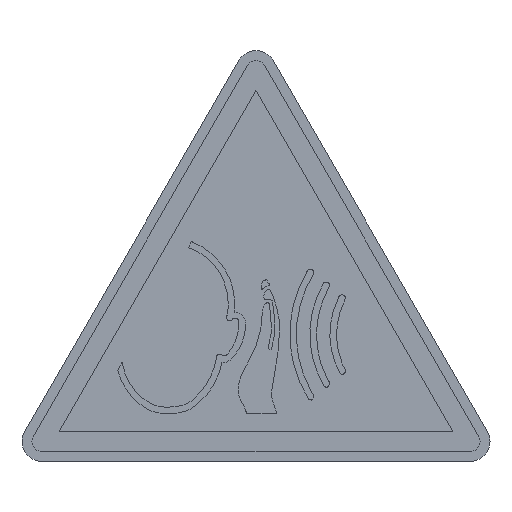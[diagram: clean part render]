
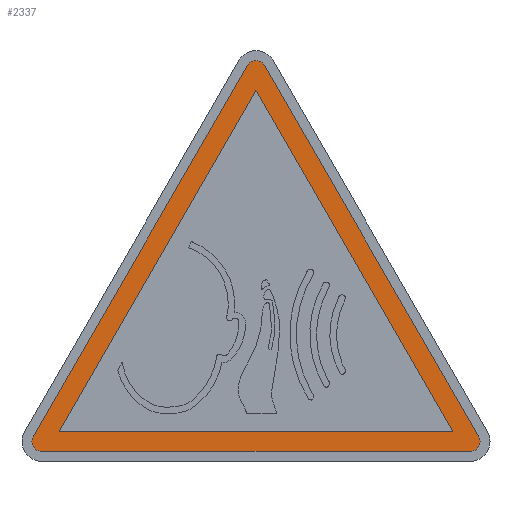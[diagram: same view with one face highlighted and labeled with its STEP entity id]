
A CAD part, top view. The second image highlights one B-rep face of the part: STEP entity #2337.
In plain terms, the highlighted planar face has unit normal (0, 0, 1).
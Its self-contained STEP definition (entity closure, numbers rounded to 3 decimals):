
#3 = VECTOR ( 'NONE', #2877, 1000. ) ;
#30 = ORIENTED_EDGE ( 'NONE', *, *, #869, .T. ) ;
#149 = DIRECTION ( 'NONE',  ( 1., 0., 0. ) ) ;
#150 = CARTESIAN_POINT ( 'NONE',  ( 0., 37.301, 0.22 ) ) ;
#340 = DIRECTION ( 'NONE',  ( 1., 0., 0. ) ) ;
#419 = DIRECTION ( 'NONE',  ( 1., 0., 0. ) ) ;
#515 = VERTEX_POINT ( 'NONE', #5719 ) ;
#528 = DIRECTION ( 'NONE',  ( 0., 0., 1. ) ) ;
#541 = CARTESIAN_POINT ( 'NONE',  ( 0.866, 39.801, 0.22 ) ) ;
#563 = CARTESIAN_POINT ( 'NONE',  ( 19.804, 3., 0.22 ) ) ;
#765 = EDGE_CURVE ( 'NONE', #1072, #4222, #1059, .T. ) ;
#869 = EDGE_CURVE ( 'NONE', #2941, #1072, #4827, .T. ) ;
#921 = CARTESIAN_POINT ( 'NONE',  ( 19.804, 3., 0.22 ) ) ;
#1050 = PLANE ( 'NONE',  #4871 ) ;
#1059 = LINE ( 'NONE', #6585, #4594 ) ;
#1072 = VERTEX_POINT ( 'NONE', #6056 ) ;
#1473 = DIRECTION ( 'NONE',  ( 0., 0., 1. ) ) ;
#1617 = FACE_OUTER_BOUND ( 'NONE', #4154, .T. ) ;
#1631 = ORIENTED_EDGE ( 'NONE', *, *, #3097, .T. ) ;
#1796 = VECTOR ( 'NONE', #5679, 1000. ) ;
#1857 = EDGE_CURVE ( 'NONE', #2419, #2941, #4033, .T. ) ;
#2053 = VERTEX_POINT ( 'NONE', #921 ) ;
#2086 = ORIENTED_EDGE ( 'NONE', *, *, #4495, .T. ) ;
#2337 = ADVANCED_FACE ( 'NONE', ( #1617, #3775 ), #1050, .T. ) ;
#2419 = VERTEX_POINT ( 'NONE', #5030 ) ;
#2629 = EDGE_CURVE ( 'NONE', #5624, #2053, #6929, .T. ) ;
#2653 = DIRECTION ( 'NONE',  ( 1., 0., 0. ) ) ;
#2755 = ORIENTED_EDGE ( 'NONE', *, *, #5578, .F. ) ;
#2877 = DIRECTION ( 'NONE',  ( -0.5, 0.866, 0. ) ) ;
#2941 = VERTEX_POINT ( 'NONE', #541 ) ;
#2980 = CARTESIAN_POINT ( 'NONE',  ( 21.536, 1., 0.22 ) ) ;
#3079 = VERTEX_POINT ( 'NONE', #4765 ) ;
#3097 = EDGE_CURVE ( 'NONE', #7029, #2419, #4958, .T. ) ;
#3265 = LINE ( 'NONE', #563, #3 ) ;
#3449 = CARTESIAN_POINT ( 'NONE',  ( 22.402, 2.5, 0.22 ) ) ;
#3484 = EDGE_CURVE ( 'NONE', #515, #7029, #6433, .T. ) ;
#3570 = CARTESIAN_POINT ( 'NONE',  ( -21.536, 1., 0.22 ) ) ;
#3702 = DIRECTION ( 'NONE',  ( 1., 0., 0. ) ) ;
#3775 = FACE_BOUND ( 'NONE', #6730, .T. ) ;
#3792 = ORIENTED_EDGE ( 'NONE', *, *, #765, .T. ) ;
#3794 = CARTESIAN_POINT ( 'NONE',  ( -19.804, 3., 0.22 ) ) ;
#4033 = LINE ( 'NONE', #3449, #4276 ) ;
#4154 = EDGE_LOOP ( 'NONE', ( #30, #3792, #2086, #6932, #1631, #5706 ) ) ;
#4194 = CARTESIAN_POINT ( 'NONE',  ( -21.536, 2., 0.22 ) ) ;
#4222 = VERTEX_POINT ( 'NONE', #5755 ) ;
#4276 = VECTOR ( 'NONE', #6219, 1000. ) ;
#4372 = DIRECTION ( 'NONE',  ( 1., 0., 0. ) ) ;
#4495 = EDGE_CURVE ( 'NONE', #4222, #515, #6897, .T. ) ;
#4560 = DIRECTION ( 'NONE',  ( 0., 0., 1. ) ) ;
#4594 = VECTOR ( 'NONE', #4925, 1000. ) ;
#4614 = AXIS2_PLACEMENT_3D ( 'NONE', #6837, #6419, #3702 ) ;
#4623 = VECTOR ( 'NONE', #2653, 1000. ) ;
#4743 = ORIENTED_EDGE ( 'NONE', *, *, #5228, .F. ) ;
#4765 = CARTESIAN_POINT ( 'NONE',  ( 0., 37.301, 0.22 ) ) ;
#4827 = CIRCLE ( 'NONE', #6984, 1. ) ;
#4854 = VECTOR ( 'NONE', #340, 1000. ) ;
#4871 = AXIS2_PLACEMENT_3D ( 'NONE', #4884, #528, #4372 ) ;
#4884 = CARTESIAN_POINT ( 'NONE',  ( 0., 39.301, 0.22 ) ) ;
#4925 = DIRECTION ( 'NONE',  ( -0.5, -0.866, 0. ) ) ;
#4958 = CIRCLE ( 'NONE', #4614, 1. ) ;
#5030 = CARTESIAN_POINT ( 'NONE',  ( 22.402, 2.5, 0.22 ) ) ;
#5097 = AXIS2_PLACEMENT_3D ( 'NONE', #4194, #1473, #419 ) ;
#5228 = EDGE_CURVE ( 'NONE', #3079, #5624, #5638, .T. ) ;
#5578 = EDGE_CURVE ( 'NONE', #2053, #3079, #3265, .T. ) ;
#5605 = CARTESIAN_POINT ( 'NONE',  ( 0., 39.301, 0.22 ) ) ;
#5624 = VERTEX_POINT ( 'NONE', #6162 ) ;
#5638 = LINE ( 'NONE', #150, #1796 ) ;
#5679 = DIRECTION ( 'NONE',  ( -0.5, -0.866, 0. ) ) ;
#5706 = ORIENTED_EDGE ( 'NONE', *, *, #1857, .T. ) ;
#5719 = CARTESIAN_POINT ( 'NONE',  ( -21.536, 1., 0.22 ) ) ;
#5755 = CARTESIAN_POINT ( 'NONE',  ( -22.402, 2.5, 0.22 ) ) ;
#6056 = CARTESIAN_POINT ( 'NONE',  ( -0.866, 39.801, 0.22 ) ) ;
#6087 = ORIENTED_EDGE ( 'NONE', *, *, #2629, .F. ) ;
#6162 = CARTESIAN_POINT ( 'NONE',  ( -19.804, 3., 0.22 ) ) ;
#6219 = DIRECTION ( 'NONE',  ( -0.5, 0.866, 0. ) ) ;
#6419 = DIRECTION ( 'NONE',  ( 0., 0., 1. ) ) ;
#6433 = LINE ( 'NONE', #3570, #4854 ) ;
#6585 = CARTESIAN_POINT ( 'NONE',  ( -0.866, 39.801, 0.22 ) ) ;
#6730 = EDGE_LOOP ( 'NONE', ( #6087, #4743, #2755 ) ) ;
#6837 = CARTESIAN_POINT ( 'NONE',  ( 21.536, 2., 0.22 ) ) ;
#6897 = CIRCLE ( 'NONE', #5097, 1. ) ;
#6929 = LINE ( 'NONE', #3794, #4623 ) ;
#6932 = ORIENTED_EDGE ( 'NONE', *, *, #3484, .T. ) ;
#6984 = AXIS2_PLACEMENT_3D ( 'NONE', #5605, #4560, #149 ) ;
#7029 = VERTEX_POINT ( 'NONE', #2980 ) ;
